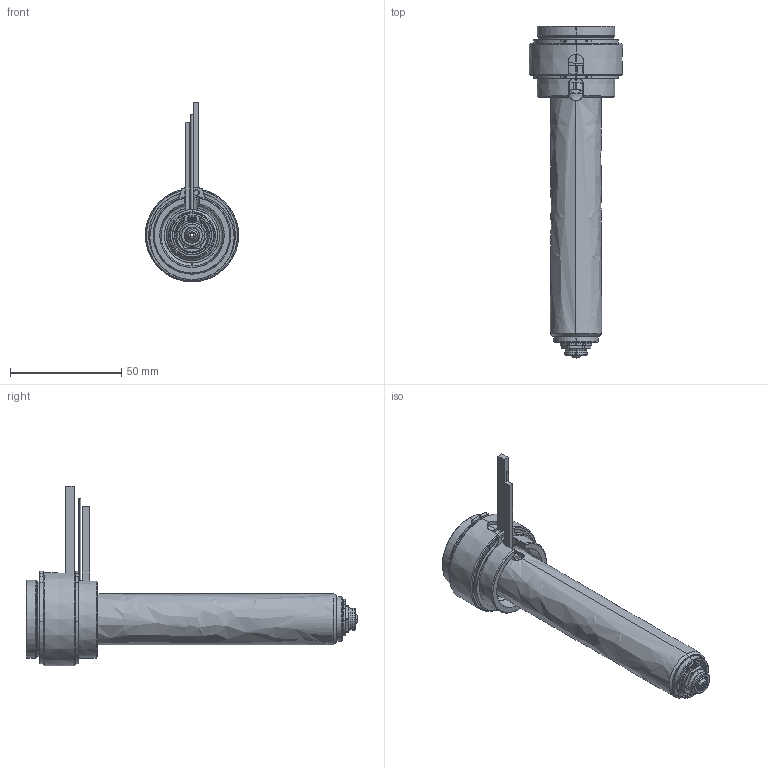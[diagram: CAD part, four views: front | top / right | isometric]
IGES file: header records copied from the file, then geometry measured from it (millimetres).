
Start section: SolidWorks IGES file using analytic representation for surfaces
Global section: file name: C:\Documents and Settings\ws-20\Desktop\TEM\UGER3553-S-A-1 [Øb-1.50  ØC-6.0].IGS; native system: SolidWorks 2012; preprocessor: SolidWorks 2012; author: ws-20; date: 120410.095115; units: millimetre
Bounding box: 42 x 149.4 x 80.9 mm (x, y, z)
Surface area: 45576.3 mm2 (no closed solid volume)
Topology: 0 solids, 0 shells, 211 faces, 3732 edges, 3732 vertices
Faces by surface type: revolution 137, bspline 74
